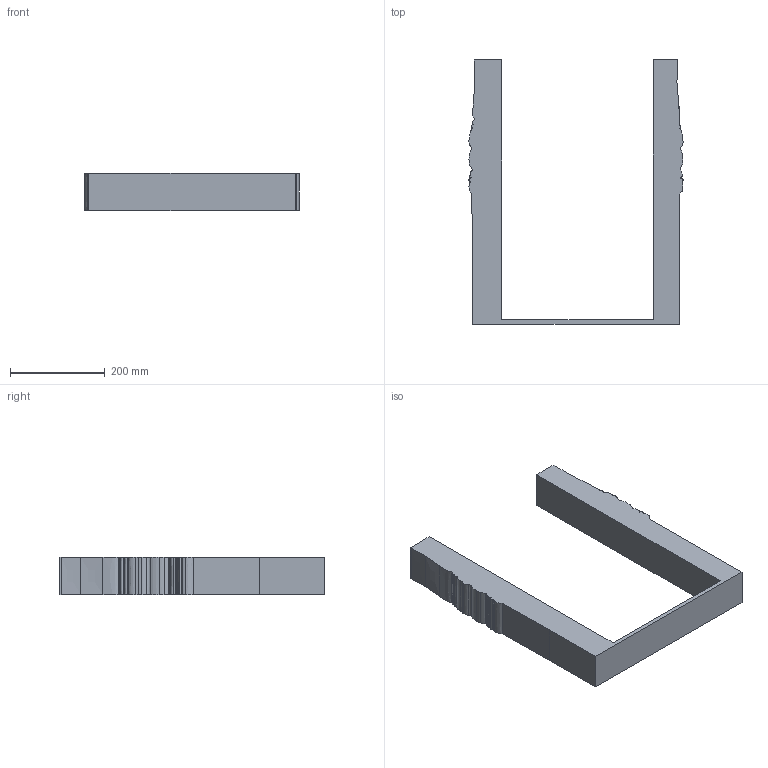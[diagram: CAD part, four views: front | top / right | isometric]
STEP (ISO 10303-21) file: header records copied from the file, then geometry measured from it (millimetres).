
FILE_DESCRIPTION(/* description */ (''),/* implementation_level */ '2;1');
FILE_NAME(/* name */ 'wood2.step',/* time_stamp */ '2026-06-27T03:52:25+02:00',/* author */ (''),/* organization */ (''),/* preprocessor_version */ 'ST-DEVELOPER v20.1',/* originating_system */ 'Autodesk Translation Framework v15.8.0.0',/* authorisation */ '');
FILE_SCHEMA (('AUTOMOTIVE_DESIGN { 1 0 10303 214 3 1 1 }'));
Length unit declared in the file: millimetre
Products named in the file (2): 2026-06-27-03-52-25-628; 2026-06-27-03-52-25-629
Assembly tree (1 placements, depth 2):
  2026-06-27-03-52-25-628
    2026-06-27-03-52-25-629
Bounding box: 451.74 x 558.35 x 78.8 mm (x, y, z)
Volume: 5426826.7 mm3; surface area: 382767.6 mm2
Topology: 1 solids, 1 shells, 69 faces, 201 edges, 134 vertices
Faces by surface type: bspline 50, plane 19
Entity records: 2953 total; most frequent: CARTESIAN_POINT 1475, ORIENTED_EDGE 402, EDGE_CURVE 201, DIRECTION 143, VERTEX_POINT 134, LINE 99, VECTOR 99, FACE_OUTER_BOUND 69
